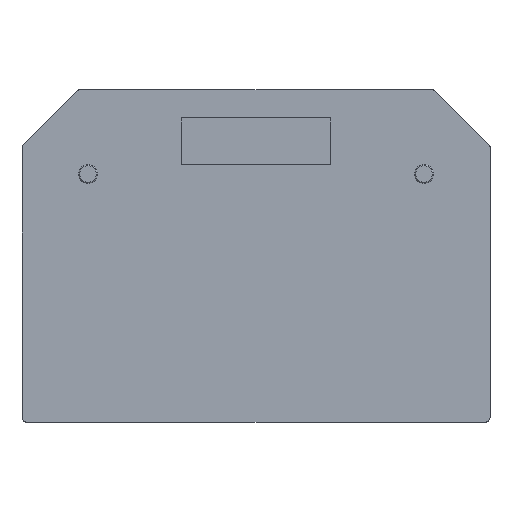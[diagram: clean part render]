
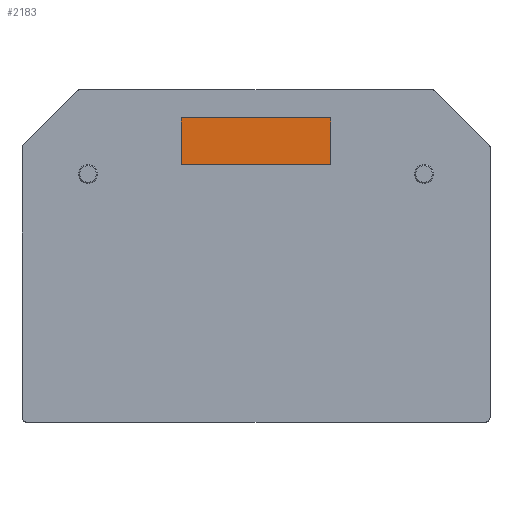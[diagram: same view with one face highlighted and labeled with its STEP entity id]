
A CAD part, top view. The second image highlights one B-rep face of the part: STEP entity #2183.
In plain terms, the highlighted planar face has unit normal (0, 0, 1).
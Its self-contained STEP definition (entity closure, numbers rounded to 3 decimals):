
#2183 = ADVANCED_FACE('',(#2184),#2198,.T.);
#2184 = FACE_BOUND('',#2185,.T.);
#2185 = EDGE_LOOP('',(#2186,#2209,#2225,#2241));
#2186 = ORIENTED_EDGE('',*,*,#2187,.F.);
#2187 = EDGE_CURVE('',#2188,#2190,#2192,.T.);
#2188 = VERTEX_POINT('',#2189);
#2189 = CARTESIAN_POINT('',(848.605,314.809,-0.1));
#2190 = VERTEX_POINT('',#2191);
#2191 = CARTESIAN_POINT('',(880.605,314.809,-0.1));
#2192 = SURFACE_CURVE('',#2193,(#2197),.PCURVE_S1.);
#2193 = LINE('',#2194,#2195);
#2194 = CARTESIAN_POINT('',(880.605,314.809,-0.1));
#2195 = VECTOR('',#2196,1.);
#2196 = DIRECTION('',(1.,0.,0.));
#2197 = PCURVE('',#2198,#2203);
#2198 = PLANE('',#2199);
#2199 = AXIS2_PLACEMENT_3D('',#2200,#2201,#2202);
#2200 = CARTESIAN_POINT('',(0.,0.,-0.1));
#2201 = DIRECTION('',(0.,0.,1.));
#2202 = DIRECTION('',(1.,0.,0.));
#2203 = DEFINITIONAL_REPRESENTATION('',(#2204),#2208);
#2204 = LINE('',#2205,#2206);
#2205 = CARTESIAN_POINT('',(880.605,314.809));
#2206 = VECTOR('',#2207,1.);
#2207 = DIRECTION('',(1.,0.));
#2208 = ( GEOMETRIC_REPRESENTATION_CONTEXT(2) 
PARAMETRIC_REPRESENTATION_CONTEXT() REPRESENTATION_CONTEXT('2D SPACE',''
  ) );
#2209 = ORIENTED_EDGE('',*,*,#2210,.F.);
#2210 = EDGE_CURVE('',#2211,#2188,#2213,.T.);
#2211 = VERTEX_POINT('',#2212);
#2212 = CARTESIAN_POINT('',(848.605,304.809,-0.1));
#2213 = SURFACE_CURVE('',#2214,(#2218),.PCURVE_S1.);
#2214 = LINE('',#2215,#2216);
#2215 = CARTESIAN_POINT('',(848.605,314.809,-0.1));
#2216 = VECTOR('',#2217,1.);
#2217 = DIRECTION('',(0.,1.,0.));
#2218 = PCURVE('',#2198,#2219);
#2219 = DEFINITIONAL_REPRESENTATION('',(#2220),#2224);
#2220 = LINE('',#2221,#2222);
#2221 = CARTESIAN_POINT('',(848.605,314.809));
#2222 = VECTOR('',#2223,1.);
#2223 = DIRECTION('',(0.,1.));
#2224 = ( GEOMETRIC_REPRESENTATION_CONTEXT(2) 
PARAMETRIC_REPRESENTATION_CONTEXT() REPRESENTATION_CONTEXT('2D SPACE',''
  ) );
#2225 = ORIENTED_EDGE('',*,*,#2226,.F.);
#2226 = EDGE_CURVE('',#2227,#2211,#2229,.T.);
#2227 = VERTEX_POINT('',#2228);
#2228 = CARTESIAN_POINT('',(880.605,304.809,-0.1));
#2229 = SURFACE_CURVE('',#2230,(#2234),.PCURVE_S1.);
#2230 = LINE('',#2231,#2232);
#2231 = CARTESIAN_POINT('',(848.605,304.809,-0.1));
#2232 = VECTOR('',#2233,1.);
#2233 = DIRECTION('',(-1.,0.,0.));
#2234 = PCURVE('',#2198,#2235);
#2235 = DEFINITIONAL_REPRESENTATION('',(#2236),#2240);
#2236 = LINE('',#2237,#2238);
#2237 = CARTESIAN_POINT('',(848.605,304.809));
#2238 = VECTOR('',#2239,1.);
#2239 = DIRECTION('',(-1.,0.));
#2240 = ( GEOMETRIC_REPRESENTATION_CONTEXT(2) 
PARAMETRIC_REPRESENTATION_CONTEXT() REPRESENTATION_CONTEXT('2D SPACE',''
  ) );
#2241 = ORIENTED_EDGE('',*,*,#2242,.F.);
#2242 = EDGE_CURVE('',#2190,#2227,#2243,.T.);
#2243 = SURFACE_CURVE('',#2244,(#2248),.PCURVE_S1.);
#2244 = LINE('',#2245,#2246);
#2245 = CARTESIAN_POINT('',(880.605,304.809,-0.1));
#2246 = VECTOR('',#2247,1.);
#2247 = DIRECTION('',(0.,-1.,0.));
#2248 = PCURVE('',#2198,#2249);
#2249 = DEFINITIONAL_REPRESENTATION('',(#2250),#2254);
#2250 = LINE('',#2251,#2252);
#2251 = CARTESIAN_POINT('',(880.605,304.809));
#2252 = VECTOR('',#2253,1.);
#2253 = DIRECTION('',(0.,-1.));
#2254 = ( GEOMETRIC_REPRESENTATION_CONTEXT(2) 
PARAMETRIC_REPRESENTATION_CONTEXT() REPRESENTATION_CONTEXT('2D SPACE',''
  ) );
